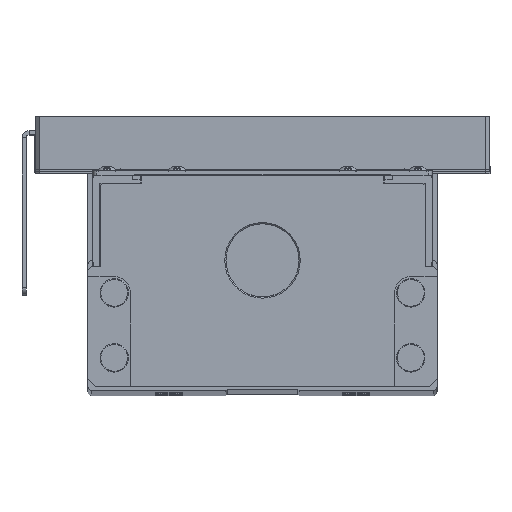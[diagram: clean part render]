
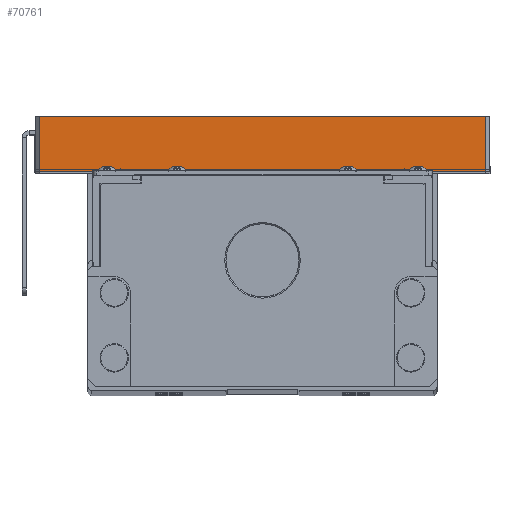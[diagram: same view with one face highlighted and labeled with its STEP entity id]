
A CAD part, top view. The second image highlights one B-rep face of the part: STEP entity #70761.
In plain terms, the highlighted planar face has unit normal (0, 0, 1).
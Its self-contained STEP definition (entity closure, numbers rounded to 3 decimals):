
#701 = VERTEX_POINT ( 'NONE', #94469 ) ;
#3686 = LINE ( 'NONE', #71100, #26742 ) ;
#4369 = LINE ( 'NONE', #34120, #73995 ) ;
#4568 = DIRECTION ( 'NONE',  ( 1., 0., 0. ) ) ;
#5692 = LINE ( 'NONE', #70331, #32974 ) ;
#7375 = CARTESIAN_POINT ( 'NONE',  ( 55., 68., 66.582 ) ) ;
#12337 = DIRECTION ( 'NONE',  ( 0., 0., 1. ) ) ;
#17561 = VECTOR ( 'NONE', #74789, 1000. ) ;
#19190 = CARTESIAN_POINT ( 'NONE',  ( 55., 68., 66.582 ) ) ;
#26742 = VECTOR ( 'NONE', #49554, 1000. ) ;
#32858 = VERTEX_POINT ( 'NONE', #66657 ) ;
#32974 = VECTOR ( 'NONE', #51091, 1000. ) ;
#34120 = CARTESIAN_POINT ( 'NONE',  ( -55., 54.3, 66.582 ) ) ;
#45974 = ORIENTED_EDGE ( 'NONE', *, *, #75006, .F. ) ;
#48507 = CARTESIAN_POINT ( 'NONE',  ( 0., 68., 66.582 ) ) ;
#49554 = DIRECTION ( 'NONE',  ( 1., 0., 0. ) ) ;
#50422 = EDGE_CURVE ( 'NONE', #94983, #701, #5692, .T. ) ;
#50724 = DIRECTION ( 'NONE',  ( 0., -1., 0. ) ) ;
#51091 = DIRECTION ( 'NONE',  ( -1., 0., 0. ) ) ;
#51512 = EDGE_CURVE ( 'NONE', #94983, #56249, #60129, .T. ) ;
#52878 = AXIS2_PLACEMENT_3D ( 'NONE', #48507, #12337, #4568 ) ;
#56249 = VERTEX_POINT ( 'NONE', #19190 ) ;
#60129 = LINE ( 'NONE', #7375, #17561 ) ;
#62185 = ORIENTED_EDGE ( 'NONE', *, *, #51512, .T. ) ;
#66657 = CARTESIAN_POINT ( 'NONE',  ( -55., 68., 66.582 ) ) ;
#69328 = CARTESIAN_POINT ( 'NONE',  ( 55., 54.3, 66.582 ) ) ;
#70331 = CARTESIAN_POINT ( 'NONE',  ( -56., 54.3, 66.582 ) ) ;
#70761 = ADVANCED_FACE ( 'NONE', ( #79325 ), #71026, .T. ) ;
#71026 = PLANE ( 'NONE',  #52878 ) ;
#71100 = CARTESIAN_POINT ( 'NONE',  ( 56., 68., 66.582 ) ) ;
#73995 = VECTOR ( 'NONE', #50724, 1000. ) ;
#74517 = ORIENTED_EDGE ( 'NONE', *, *, #50422, .F. ) ;
#74789 = DIRECTION ( 'NONE',  ( 0., 1., 0. ) ) ;
#75006 = EDGE_CURVE ( 'NONE', #32858, #56249, #3686, .T. ) ;
#78782 = EDGE_CURVE ( 'NONE', #32858, #701, #4369, .T. ) ;
#79325 = FACE_OUTER_BOUND ( 'NONE', #80132, .T. ) ;
#80132 = EDGE_LOOP ( 'NONE', ( #74517, #62185, #45974, #88476 ) ) ;
#88476 = ORIENTED_EDGE ( 'NONE', *, *, #78782, .T. ) ;
#94469 = CARTESIAN_POINT ( 'NONE',  ( -55., 54.3, 66.582 ) ) ;
#94983 = VERTEX_POINT ( 'NONE', #69328 ) ;
